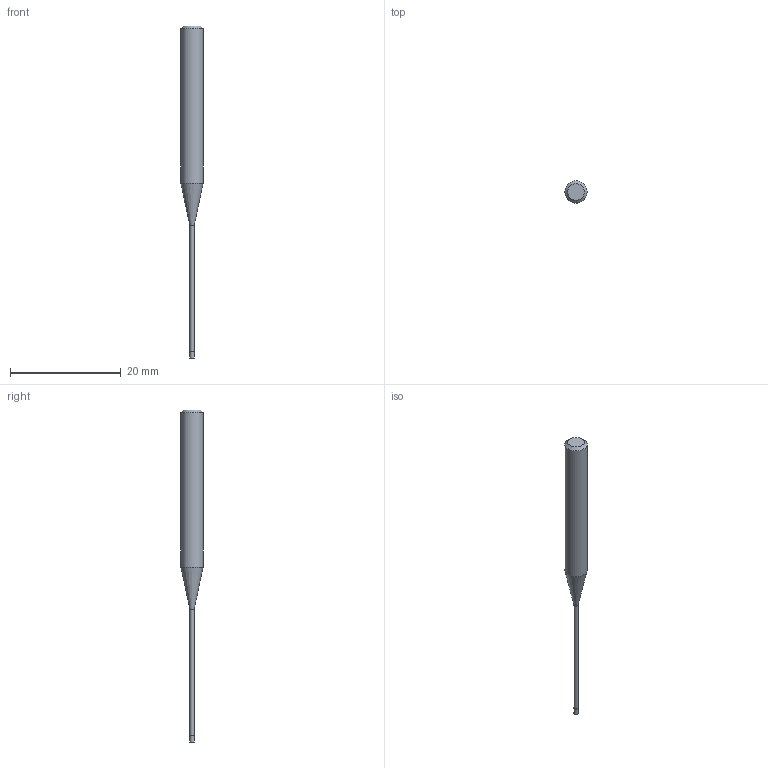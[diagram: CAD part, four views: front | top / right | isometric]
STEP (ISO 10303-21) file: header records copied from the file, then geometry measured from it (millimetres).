
FILE_DESCRIPTION((''),'2;1');
FILE_NAME('C:\Users\nsx150\AppData\Local\Temp\Mastercam 2021\17T8Q8S9EB\TEMP.step','2021-04-21T14:25:29',(''),(''),'STEP Write','Mastercam 2021 ... CNC Software, Inc.','');
FILE_SCHEMA(('AUTOMOTIVE_DESIGN'));
Length unit declared in the file: millimetre
Products named in the file (1): None
Bounding box: 4 x 4 x 60 mm (x, y, z)
Volume: 405.3 mm3; surface area: 482.3 mm2
Topology: 2 solids, 2 shells, 9 faces, 12 edges, 7 vertices
Faces by surface type: plane 4, cylinder 3, cone 2
Full cylindrical faces by diameter (mm): 0.76 x1, 0.8 x1, 4 x1
Entity records: 211 total; most frequent: DIRECTION 36, CARTESIAN_POINT 25, AXIS2_PLACEMENT_3D 18, ORIENTED_EDGE 14, EDGE_LOOP 14, STYLED_ITEM 12, ADVANCED_FACE 9, FACE_BOUND 8
